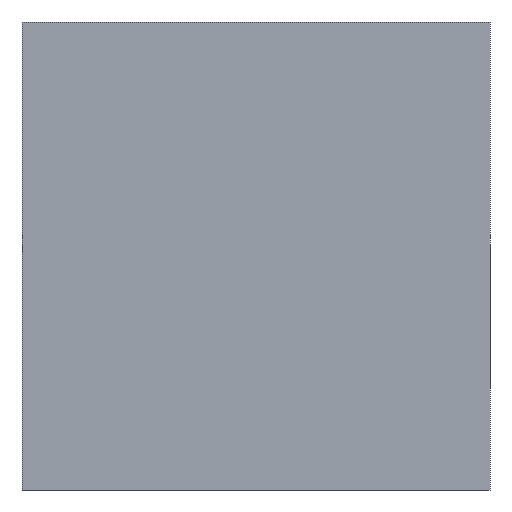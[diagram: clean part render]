
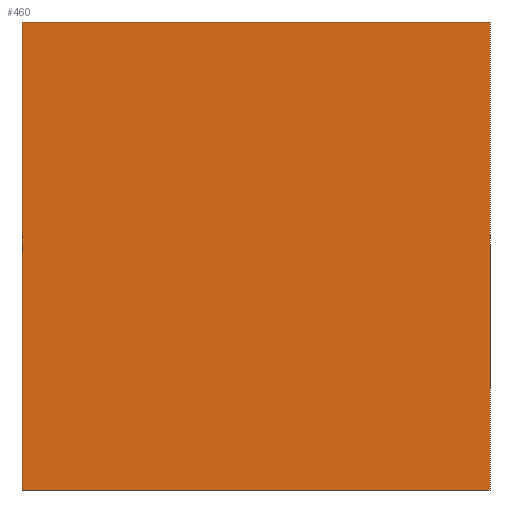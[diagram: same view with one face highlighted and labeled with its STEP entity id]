
A CAD part, left-side view. The second image highlights one B-rep face of the part: STEP entity #460.
In plain terms, the highlighted planar face has unit normal (-1, 0, 0).
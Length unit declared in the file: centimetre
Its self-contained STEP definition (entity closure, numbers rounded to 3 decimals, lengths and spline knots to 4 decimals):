
#13 = AXIS2_PLACEMENT_3D ( 'NONE', #363, #145, #187 ) ;
#20 = LINE ( 'NONE', #308, #212 ) ;
#25 = CARTESIAN_POINT ( 'NONE',  ( 0., 1000., 1000. ) ) ;
#33 = CARTESIAN_POINT ( 'NONE',  ( 0., 1000., 0. ) ) ;
#37 = VERTEX_POINT ( 'NONE', #331 ) ;
#39 = VECTOR ( 'NONE', #340, 100. ) ;
#43 = CARTESIAN_POINT ( 'NONE',  ( 0., 0., 0. ) ) ;
#51 = ORIENTED_EDGE ( 'NONE', *, *, #203, .F. ) ;
#77 = FACE_OUTER_BOUND ( 'NONE', #291, .T. ) ;
#90 = ORIENTED_EDGE ( 'NONE', *, *, #197, .F. ) ;
#138 = LINE ( 'NONE', #25, #39 ) ;
#139 = PLANE ( 'NONE',  #13 ) ;
#145 = DIRECTION ( 'NONE',  ( 1., 0., 0. ) ) ;
#153 = VERTEX_POINT ( 'NONE', #43 ) ;
#159 = CARTESIAN_POINT ( 'NONE',  ( 0., 0., 1000. ) ) ;
#161 = VECTOR ( 'NONE', #430, 100. ) ;
#162 = DIRECTION ( 'NONE',  ( 0., 0., -1. ) ) ;
#187 = DIRECTION ( 'NONE',  ( 0., 0., -1. ) ) ;
#197 = EDGE_CURVE ( 'NONE', #37, #402, #138, .T. ) ;
#203 = EDGE_CURVE ( 'NONE', #402, #153, #414, .T. ) ;
#212 = VECTOR ( 'NONE', #374, 100. ) ;
#222 = CARTESIAN_POINT ( 'NONE',  ( 0., 0., 1000. ) ) ;
#228 = EDGE_CURVE ( 'NONE', #37, #337, #20, .T. ) ;
#275 = ORIENTED_EDGE ( 'NONE', *, *, #228, .T. ) ;
#289 = ORIENTED_EDGE ( 'NONE', *, *, #305, .T. ) ;
#291 = EDGE_LOOP ( 'NONE', ( #289, #51, #90, #275 ) ) ;
#305 = EDGE_CURVE ( 'NONE', #337, #153, #317, .T. ) ;
#308 = CARTESIAN_POINT ( 'NONE',  ( 0., 1000., 1000. ) ) ;
#317 = LINE ( 'NONE', #351, #161 ) ;
#331 = CARTESIAN_POINT ( 'NONE',  ( 0., 1000., 1000. ) ) ;
#337 = VERTEX_POINT ( 'NONE', #33 ) ;
#340 = DIRECTION ( 'NONE',  ( 0., -1., 0. ) ) ;
#351 = CARTESIAN_POINT ( 'NONE',  ( 0., 1000., 0. ) ) ;
#363 = CARTESIAN_POINT ( 'NONE',  ( 0., 1000., 1000. ) ) ;
#374 = DIRECTION ( 'NONE',  ( 0., 0., -1. ) ) ;
#402 = VERTEX_POINT ( 'NONE', #222 ) ;
#414 = LINE ( 'NONE', #159, #417 ) ;
#417 = VECTOR ( 'NONE', #162, 100. ) ;
#430 = DIRECTION ( 'NONE',  ( 0., -1., 0. ) ) ;
#460 = ADVANCED_FACE ( 'NONE', ( #77 ), #139, .F. ) ;
